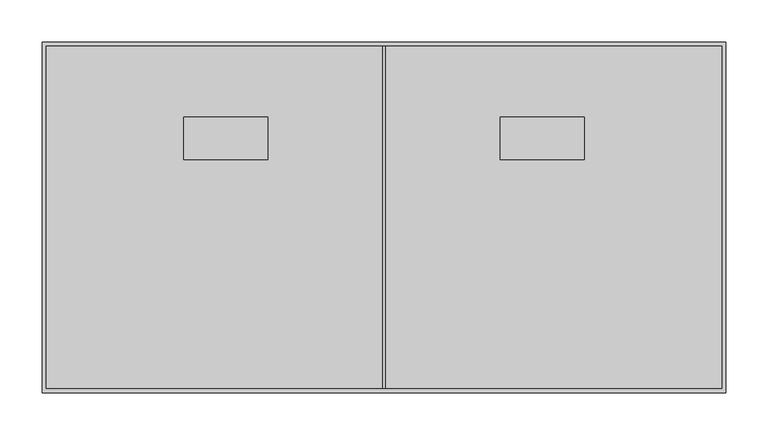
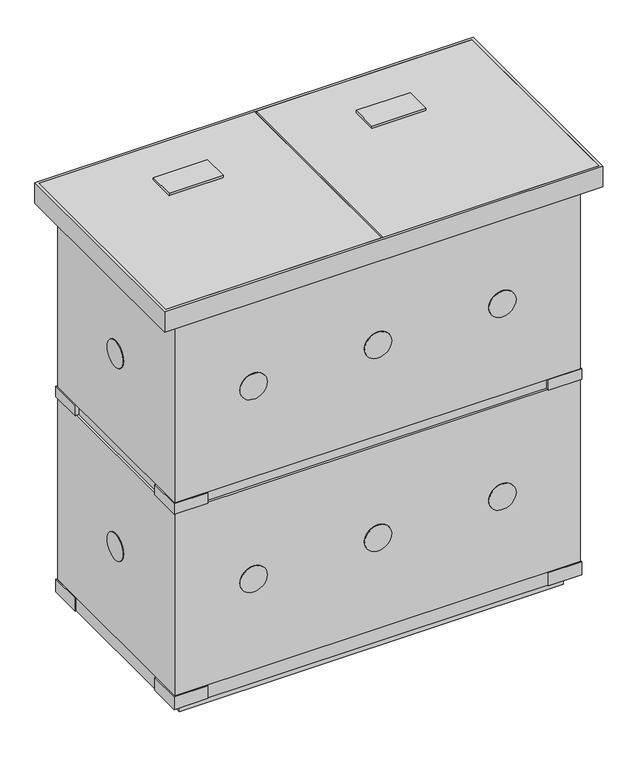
"""IFC4 building model written with IfcOpenShell, lengths in millimetres: cable carrier fitting geometry, КНС_КолодецПластиковыйСКрышками_750-375-750_270375-270375V0_DKC : Колодец кабельный 750×375×750_270375."""

from ifc_helpers import new_model, si_unit, point, frame, frame_2d, origin, place, context, project, spatial, polyline, circle_curve, trimmed, segment, composite_curve, outline, extrude, faceted_brep, source, transform, mapped, element, save


def cable_carrier_fitting_aa620e18(model_context):
    return source(origin(), model_context, "Body", "SolidModel", [
        extrude(outline(polyline([(784.0, -400.1236598), (784.0, 400.1236598), (824.0, 400.1236598), (824.0, 2.0), (819.1918571, 2.0), (819.1918571, -2.0), (824.0, -2.0), (824.0, -400.1236598), (784.0, -400.1236598)])), frame((0.0, -202.9070941, 0.0), z_axis=(0.0, 1.0, 0.0), x_axis=(0.0, 0.0, 1.0)), (0.0, 0.0, 1.0), 405.8141882),
        extrude(outline(polyline([(405.1236598, 207.9070941), (405.1236598, -207.9070941), (-405.1236598, -207.9070941), (-405.1236598, 207.9070941), (405.1236598, 207.9070941)]), holes=[polyline([(400.1236598, 202.9070941), (-400.1236598, 202.9070941), (-400.1236598, -202.9070941), (400.1236598, -202.9070941), (400.1236598, 202.9070941)])]), frame((0.0, 0.0, 784.0), z_axis=(0.0, 0.0, 1.0), x_axis=(1.0, 0.0, 0.0)), (0.0, 0.0, 1.0), 40.0),
        faceted_brep([(375.0, 187.5, 784.0), (-375.0, 187.5, 784.0), (-375.0, -187.5, 784.0), (375.0, -187.5, 784.0), (-355.0, 167.5, 784.0), (355.0, 167.5, 784.0), (355.0, -167.5, 784.0), (-355.0, -167.5, 784.0), (375.0, 187.5, 50.0), (375.0, -187.5, 50.0), (-375.0, -187.5, 50.0), (-375.0, 187.5, 50.0), (355.0, 167.5, 50.0), (-355.0, 167.5, 50.0), (-355.0, -167.5, 50.0), (355.0, -167.5, 50.0), (375.0, 187.5, 427.0), (-375.0, 187.5, 427.0), (-375.0, 187.5, 407.0), (375.0, 187.5, 407.0), (-375.0, -187.5, 427.0), (-375.0, -187.5, 407.0), (375.0, -187.5, 427.0), (375.0, -187.5, 407.0), (-370.0, 182.5, 407.0), (-370.0, -182.5, 407.0), (-370.0, -182.5, 427.0), (-370.0, 182.5, 427.0), (370.0, -182.5, 407.0), (370.0, -182.5, 427.0), (370.0, 182.5, 407.0), (370.0, 182.5, 427.0)], [[[0, 1, 2, 3], [4, 5, 6, 7]], [[8, 9, 10, 11], [12, 13, 14, 15]], [[1, 0, 16, 17]], [[8, 11, 18, 19]], [[2, 1, 17, 20]], [[11, 10, 21, 18]], [[3, 2, 20, 22]], [[10, 9, 23, 21]], [[0, 3, 22, 16]], [[9, 8, 19, 23]], [[24, 25, 26, 27]], [[26, 25, 28, 29]], [[29, 28, 30, 31]], [[24, 27, 31, 30]], [[19, 18, 21, 23], [25, 24, 30, 28]], [[17, 16, 22, 20], [27, 26, 29, 31]], [[4, 13, 12, 5]], [[13, 4, 7, 14]], [[14, 7, 6, 15]], [[5, 12, 15, 6]]]),
        faceted_brep([(375.0, 187.5, 50.0), (-375.0, 187.5, 50.0), (-375.0, -187.5, 50.0), (375.0, -187.5, 50.0), (355.0, 167.5, 0.0), (355.0, -167.5, 0.0), (-355.0, -167.5, 0.0), (-355.0, 167.5, 0.0), (375.0, 187.5, 25.0), (-375.0, 187.5, 25.0), (-375.0, -187.5, 25.0), (375.0, -187.5, 25.0), (355.0, 167.5, 25.0), (355.0, -167.5, 25.0), (-355.0, -167.5, 25.0), (-355.0, 167.5, 25.0)], [[[0, 1, 2, 3]], [[4, 5, 6, 7]], [[1, 0, 8, 9]], [[2, 1, 9, 10]], [[3, 2, 10, 11]], [[0, 3, 11, 8]], [[12, 13, 5, 4]], [[5, 13, 14, 6]], [[6, 14, 15, 7]], [[12, 4, 7, 15]], [[9, 8, 11, 10], [13, 12, 15, 14]]]),
        extrude(outline(composite_curve([segment(trimmed(circle_curve(frame_2d((0.0, 605.5)), 25.0), [point((-25.0, 605.5))], [point((25.0, 605.5))], False, "CARTESIAN"), True, "CONTINUOUS"), segment(trimmed(circle_curve(frame_2d((0.0, 605.5)), 25.0), [point((25.0, 605.5))], [point((-25.0, 605.5))], False, "CARTESIAN"), True, "CONTINUOUS")], self_intersect=False)), frame((375.0, 0.0, 0.0), z_axis=(1.0, 0.0, 0.0), x_axis=(0.0, 1.0, 0.0)), (0.0, 0.0, 1.0), 2.0),
        extrude(outline(composite_curve([segment(trimmed(circle_curve(frame_2d((0.0, 228.5)), 25.0), [point((-25.0, 228.5))], [point((25.0, 228.5))], False, "CARTESIAN"), True, "CONTINUOUS"), segment(trimmed(circle_curve(frame_2d((0.0, 228.5)), 25.0), [point((25.0, 228.5))], [point((-25.0, 228.5))], False, "CARTESIAN"), True, "CONTINUOUS")], self_intersect=False)), frame((375.0, 0.0, 0.0), z_axis=(1.0, 0.0, 0.0), x_axis=(0.0, 1.0, 0.0)), (0.0, 0.0, 1.0), 2.0),
        extrude(outline(composite_curve([segment(trimmed(circle_curve(frame_2d((0.0, 605.5)), 25.0), [point((-25.0, 605.5))], [point((25.0, 605.5))], False, "CARTESIAN"), True, "CONTINUOUS"), segment(trimmed(circle_curve(frame_2d((0.0, 605.5)), 25.0), [point((25.0, 605.5))], [point((-25.0, 605.5))], False, "CARTESIAN"), True, "CONTINUOUS")], self_intersect=False)), frame((-377.0, 0.0, 0.0), z_axis=(1.0, 0.0, 0.0), x_axis=(0.0, 1.0, 0.0)), (0.0, 0.0, 1.0), 2.0),
        extrude(outline(composite_curve([segment(trimmed(circle_curve(frame_2d((0.0, 228.5)), 25.0), [point((-25.0, 228.5))], [point((25.0, 228.5))], False, "CARTESIAN"), True, "CONTINUOUS"), segment(trimmed(circle_curve(frame_2d((0.0, 228.5)), 25.0), [point((25.0, 228.5))], [point((-25.0, 228.5))], False, "CARTESIAN"), True, "CONTINUOUS")], self_intersect=False)), frame((-377.0, 0.0, 0.0), z_axis=(1.0, 0.0, 0.0), x_axis=(0.0, 1.0, 0.0)), (0.0, 0.0, 1.0), 2.0),
        extrude(outline(composite_curve([segment(trimmed(circle_curve(frame_2d((605.5, -230.0)), 25.0), [point((605.5, -205.0))], [point((605.5, -255.0))], False, "CARTESIAN"), True, "CONTINUOUS"), segment(trimmed(circle_curve(frame_2d((605.5, -230.0)), 25.0), [point((605.5, -255.0))], [point((605.5, -205.0))], False, "CARTESIAN"), True, "CONTINUOUS")], self_intersect=False)), frame((0.0, -189.5, 0.0), z_axis=(0.0, 1.0, 0.0), x_axis=(0.0, 0.0, 1.0)), (0.0, 0.0, 1.0), 2.0),
        extrude(outline(composite_curve([segment(trimmed(circle_curve(frame_2d((605.5, 0.0)), 25.0), [point((605.5, 25.0))], [point((605.5, -25.0))], False, "CARTESIAN"), True, "CONTINUOUS"), segment(trimmed(circle_curve(frame_2d((605.5, 0.0)), 25.0), [point((605.5, -25.0))], [point((605.5, 25.0))], False, "CARTESIAN"), True, "CONTINUOUS")], self_intersect=False)), frame((0.0, -189.5, 0.0), z_axis=(0.0, 1.0, 0.0), x_axis=(0.0, 0.0, 1.0)), (0.0, 0.0, 1.0), 2.0),
        extrude(outline(composite_curve([segment(trimmed(circle_curve(frame_2d((605.5, 230.0)), 25.0), [point((605.5, 255.0))], [point((605.5, 205.0))], False, "CARTESIAN"), True, "CONTINUOUS"), segment(trimmed(circle_curve(frame_2d((605.5, 230.0)), 25.0), [point((605.5, 205.0))], [point((605.5, 255.0))], False, "CARTESIAN"), True, "CONTINUOUS")], self_intersect=False)), frame((0.0, -189.5, 0.0), z_axis=(0.0, 1.0, 0.0), x_axis=(0.0, 0.0, 1.0)), (0.0, 0.0, 1.0), 2.0),
        extrude(outline(composite_curve([segment(trimmed(circle_curve(frame_2d((228.5, -230.0)), 25.0), [point((228.5, -205.0))], [point((228.5, -255.0))], False, "CARTESIAN"), True, "CONTINUOUS"), segment(trimmed(circle_curve(frame_2d((228.5, -230.0)), 25.0), [point((228.5, -255.0))], [point((228.5, -205.0))], False, "CARTESIAN"), True, "CONTINUOUS")], self_intersect=False)), frame((0.0, -189.5, 0.0), z_axis=(0.0, 1.0, 0.0), x_axis=(0.0, 0.0, 1.0)), (0.0, 0.0, 1.0), 2.0),
        extrude(outline(composite_curve([segment(trimmed(circle_curve(frame_2d((228.5, 0.0)), 25.0), [point((228.5, 25.0))], [point((228.5, -25.0))], False, "CARTESIAN"), True, "CONTINUOUS"), segment(trimmed(circle_curve(frame_2d((228.5, 0.0)), 25.0), [point((228.5, -25.0))], [point((228.5, 25.0))], False, "CARTESIAN"), True, "CONTINUOUS")], self_intersect=False)), frame((0.0, -189.5, 0.0), z_axis=(0.0, 1.0, 0.0), x_axis=(0.0, 0.0, 1.0)), (0.0, 0.0, 1.0), 2.0),
        extrude(outline(composite_curve([segment(trimmed(circle_curve(frame_2d((228.5, 230.0)), 25.0), [point((228.5, 255.0))], [point((228.5, 205.0))], False, "CARTESIAN"), True, "CONTINUOUS"), segment(trimmed(circle_curve(frame_2d((228.5, 230.0)), 25.0), [point((228.5, 205.0))], [point((228.5, 255.0))], False, "CARTESIAN"), True, "CONTINUOUS")], self_intersect=False)), frame((0.0, -189.5, 0.0), z_axis=(0.0, 1.0, 0.0), x_axis=(0.0, 0.0, 1.0)), (0.0, 0.0, 1.0), 2.0),
        extrude(outline(composite_curve([segment(trimmed(circle_curve(frame_2d((605.5, -230.0)), 25.0), [point((605.5, -205.0))], [point((605.5, -255.0))], False, "CARTESIAN"), True, "CONTINUOUS"), segment(trimmed(circle_curve(frame_2d((605.5, -230.0)), 25.0), [point((605.5, -255.0))], [point((605.5, -205.0))], False, "CARTESIAN"), True, "CONTINUOUS")], self_intersect=False)), frame((0.0, 187.5, 0.0), z_axis=(0.0, 1.0, 0.0), x_axis=(0.0, 0.0, 1.0)), (0.0, 0.0, 1.0), 2.0),
        extrude(outline(composite_curve([segment(trimmed(circle_curve(frame_2d((605.5, 0.0)), 25.0), [point((605.5, 25.0))], [point((605.5, -25.0))], False, "CARTESIAN"), True, "CONTINUOUS"), segment(trimmed(circle_curve(frame_2d((605.5, 0.0)), 25.0), [point((605.5, -25.0))], [point((605.5, 25.0))], False, "CARTESIAN"), True, "CONTINUOUS")], self_intersect=False)), frame((0.0, 187.5, 0.0), z_axis=(0.0, 1.0, 0.0), x_axis=(0.0, 0.0, 1.0)), (0.0, 0.0, 1.0), 2.0),
        extrude(outline(composite_curve([segment(trimmed(circle_curve(frame_2d((605.5, 230.0)), 25.0), [point((605.5, 255.0))], [point((605.5, 205.0))], False, "CARTESIAN"), True, "CONTINUOUS"), segment(trimmed(circle_curve(frame_2d((605.5, 230.0)), 25.0), [point((605.5, 205.0))], [point((605.5, 255.0))], False, "CARTESIAN"), True, "CONTINUOUS")], self_intersect=False)), frame((0.0, 187.5, 0.0), z_axis=(0.0, 1.0, 0.0), x_axis=(0.0, 0.0, 1.0)), (0.0, 0.0, 1.0), 2.0),
        extrude(outline(composite_curve([segment(trimmed(circle_curve(frame_2d((228.5, -230.0)), 25.0), [point((228.5, -205.0))], [point((228.5, -255.0))], False, "CARTESIAN"), True, "CONTINUOUS"), segment(trimmed(circle_curve(frame_2d((228.5, -230.0)), 25.0), [point((228.5, -255.0))], [point((228.5, -205.0))], False, "CARTESIAN"), True, "CONTINUOUS")], self_intersect=False)), frame((0.0, 187.5, 0.0), z_axis=(0.0, 1.0, 0.0), x_axis=(0.0, 0.0, 1.0)), (0.0, 0.0, 1.0), 2.0),
        extrude(outline(composite_curve([segment(trimmed(circle_curve(frame_2d((228.5, 0.0)), 25.0), [point((228.5, 25.0))], [point((228.5, -25.0))], False, "CARTESIAN"), True, "CONTINUOUS"), segment(trimmed(circle_curve(frame_2d((228.5, 0.0)), 25.0), [point((228.5, -25.0))], [point((228.5, 25.0))], False, "CARTESIAN"), True, "CONTINUOUS")], self_intersect=False)), frame((0.0, 187.5, 0.0), z_axis=(0.0, 1.0, 0.0), x_axis=(0.0, 0.0, 1.0)), (0.0, 0.0, 1.0), 2.0),
        extrude(outline(composite_curve([segment(trimmed(circle_curve(frame_2d((228.5, 230.0)), 25.0), [point((228.5, 255.0))], [point((228.5, 205.0))], False, "CARTESIAN"), True, "CONTINUOUS"), segment(trimmed(circle_curve(frame_2d((228.5, 230.0)), 25.0), [point((228.5, 205.0))], [point((228.5, 255.0))], False, "CARTESIAN"), True, "CONTINUOUS")], self_intersect=False)), frame((0.0, 187.5, 0.0), z_axis=(0.0, 1.0, 0.0), x_axis=(0.0, 0.0, 1.0)), (0.0, 0.0, 1.0), 2.0),
        extrude(outline(polyline([(-377.0, 127.5), (-377.0, 189.5), (-315.0, 189.5), (-315.0, 167.5), (-355.0, 167.5), (-355.0, 127.5), (-377.0, 127.5)])), frame((0.0, 0.0, 25.0), z_axis=(0.0, 0.0, 1.0), x_axis=(1.0, 0.0, 0.0)), (0.0, 0.0, 1.0), 25.0),
        extrude(outline(polyline([(377.0, 127.5), (355.0, 127.5), (355.0, 167.5), (315.0, 167.5), (315.0, 189.5), (377.0, 189.5), (377.0, 127.5)])), frame((0.0, 0.0, 25.0), z_axis=(0.0, 0.0, 1.0), x_axis=(1.0, 0.0, 0.0)), (0.0, 0.0, 1.0), 25.0),
        extrude(outline(polyline([(-377.0, -127.5), (-355.0, -127.5), (-355.0, -167.5), (-315.0, -167.5), (-315.0, -189.5), (-377.0, -189.5), (-377.0, -127.5)])), frame((0.0, 0.0, 25.0), z_axis=(0.0, 0.0, 1.0), x_axis=(1.0, 0.0, 0.0)), (0.0, 0.0, 1.0), 25.0),
        extrude(outline(polyline([(377.0, -127.5), (377.0, -189.5), (315.0, -189.5), (315.0, -167.5), (355.0, -167.5), (355.0, -127.5), (377.0, -127.5)])), frame((0.0, 0.0, 25.0), z_axis=(0.0, 0.0, 1.0), x_axis=(1.0, 0.0, 0.0)), (0.0, 0.0, 1.0), 25.0),
        extrude(outline(polyline([(-237.5, 68.75), (-237.5, 118.75), (-137.5, 118.75), (-137.5, 68.75), (-237.5, 68.75)])), frame((0.0, 0.0, 824.0), z_axis=(0.0, 0.0, 1.0), x_axis=(1.0, 0.0, 0.0)), (0.0, 0.0, 1.0), 5.0),
        extrude(outline(polyline([(137.5, 68.75), (137.5, 118.75), (237.5, 118.75), (237.5, 68.75), (137.5, 68.75)])), frame((0.0, 0.0, 824.0), z_axis=(0.0, 0.0, 1.0), x_axis=(1.0, 0.0, 0.0)), (0.0, 0.0, 1.0), 5.0),
        extrude(outline(polyline([(377.0, -127.5), (377.0, -189.5), (315.0, -189.5), (315.0, -168.5), (356.0, -168.5), (356.0, -127.5), (377.0, -127.5)])), frame((0.0, 0.0, 407.0), z_axis=(0.0, 0.0, 1.0), x_axis=(1.0, 0.0, 0.0)), (0.0, 0.0, 1.0), 20.0),
        extrude(outline(polyline([(-377.0, -127.5), (-356.0, -127.5), (-356.0, -168.5), (-315.0, -168.5), (-315.0, -189.5), (-377.0, -189.5), (-377.0, -127.5)])), frame((0.0, 0.0, 407.0), z_axis=(0.0, 0.0, 1.0), x_axis=(1.0, 0.0, 0.0)), (0.0, 0.0, 1.0), 20.0),
        extrude(outline(polyline([(377.0, 127.5), (356.0, 127.5), (356.0, 168.5), (315.0, 168.5), (315.0, 189.5), (377.0, 189.5), (377.0, 127.5)])), frame((0.0, 0.0, 407.0), z_axis=(0.0, 0.0, 1.0), x_axis=(1.0, 0.0, 0.0)), (0.0, 0.0, 1.0), 20.0),
        extrude(outline(polyline([(-377.0, 127.5), (-377.0, 189.5), (-315.0, 189.5), (-315.0, 168.5), (-356.0, 168.5), (-356.0, 127.5), (-377.0, 127.5)])), frame((0.0, 0.0, 407.0), z_axis=(0.0, 0.0, 1.0), x_axis=(1.0, 0.0, 0.0)), (0.0, 0.0, 1.0), 20.0),
    ])


if __name__ == "__main__":
    model = new_model("IFC4")
    model_context = context("Model", 3, world=origin())
    ifc_project = project(units=[si_unit("LENGTHUNIT", "METRE", prefix="MILLI")], contexts=[model_context])
    site = spatial("IfcSite", under=ifc_project)
    building = spatial("IfcBuilding", under=site)
    placement = place(None, origin())
    cable_carrier_fitting_shape = cable_carrier_fitting_aa620e18(model_context)
    element("IfcCableCarrierFitting", 1, ObjectType="КНС_КолодецПластиковыйСКрышками_750-375-750_270375-270375V0_DKC : Колодец кабельный 750×375×750_270375", at=placement, inside=building, context=model_context, shape_type="MappedRepresentation", body=[
        mapped(cable_carrier_fitting_shape, transform((0.0, 0.0, 0.0), x_axis=(1.0, 0.0, 0.0), y_axis=(0.0, 1.0, 0.0), z_axis=(0.0, 0.0, 1.0))),
    ])
    save(model, "model.ifc")
